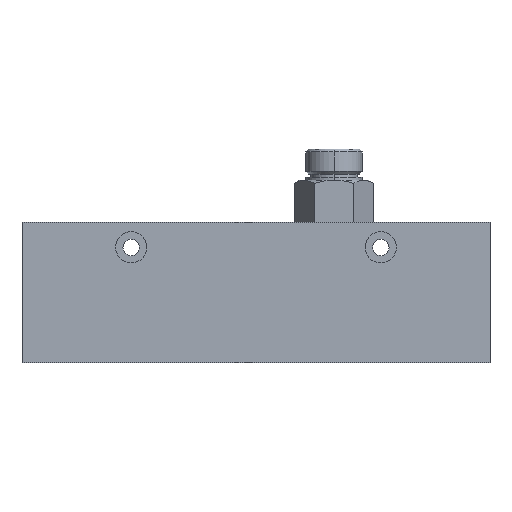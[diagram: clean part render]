
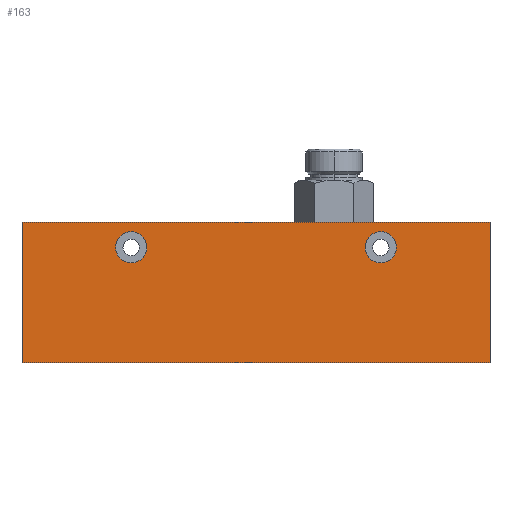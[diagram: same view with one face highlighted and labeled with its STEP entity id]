
A CAD part, top view. The second image highlights one B-rep face of the part: STEP entity #163.
In plain terms, the highlighted planar face has unit normal (0, 0, 1).
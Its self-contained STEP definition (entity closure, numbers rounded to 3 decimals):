
#163 = ADVANCED_FACE( '', ( #302, #303, #304 ), #305, .T. );
#302 = FACE_OUTER_BOUND( '', #495, .T. );
#303 = FACE_BOUND( '', #496, .T. );
#304 = FACE_BOUND( '', #497, .T. );
#305 = PLANE( '', #498 );
#495 = EDGE_LOOP( '', ( #892, #893, #894, #895 ) );
#496 = EDGE_LOOP( '', ( #896, #897 ) );
#497 = EDGE_LOOP( '', ( #898, #899 ) );
#498 = AXIS2_PLACEMENT_3D( '', #900, #901, #902 );
#892 = ORIENTED_EDGE( '', *, *, #1340, .T. );
#893 = ORIENTED_EDGE( '', *, *, #1327, .T. );
#894 = ORIENTED_EDGE( '', *, *, #1336, .T. );
#895 = ORIENTED_EDGE( '', *, *, #1339, .T. );
#896 = ORIENTED_EDGE( '', *, *, #1259, .F. );
#897 = ORIENTED_EDGE( '', *, *, #1331, .F. );
#898 = ORIENTED_EDGE( '', *, *, #1263, .F. );
#899 = ORIENTED_EDGE( '', *, *, #1330, .F. );
#900 = CARTESIAN_POINT( '', ( 0., 0., 14. ) );
#901 = DIRECTION( '', ( 0., 0., 1. ) );
#902 = DIRECTION( '', ( 1., 0., 0. ) );
#1259 = EDGE_CURVE( '', #1464, #1467, #1468, .T. );
#1263 = EDGE_CURVE( '', #1472, #1475, #1476, .T. );
#1327 = EDGE_CURVE( '', #1578, #1575, #1579, .T. );
#1330 = EDGE_CURVE( '', #1475, #1472, #1583, .T. );
#1331 = EDGE_CURVE( '', #1467, #1464, #1584, .T. );
#1336 = EDGE_CURVE( '', #1575, #1589, #1591, .T. );
#1339 = EDGE_CURVE( '', #1589, #1594, #1596, .T. );
#1340 = EDGE_CURVE( '', #1594, #1578, #1597, .T. );
#1464 = VERTEX_POINT( '', #1793 );
#1467 = VERTEX_POINT( '', #1797 );
#1468 = CIRCLE( '', #1798, 5. );
#1472 = VERTEX_POINT( '', #1803 );
#1475 = VERTEX_POINT( '', #1807 );
#1476 = CIRCLE( '', #1808, 5. );
#1575 = VERTEX_POINT( '', #1996 );
#1578 = VERTEX_POINT( '', #2000 );
#1579 = LINE( '', #2001, #2002 );
#1583 = CIRCLE( '', #2008, 5. );
#1584 = CIRCLE( '', #2009, 5. );
#1589 = VERTEX_POINT( '', #2015 );
#1591 = LINE( '', #2018, #2019 );
#1594 = VERTEX_POINT( '', #2023 );
#1596 = LINE( '', #2026, #2027 );
#1597 = LINE( '', #2028, #2029 );
#1793 = CARTESIAN_POINT( '', ( 45., 14.5, 14. ) );
#1797 = CARTESIAN_POINT( '', ( 35., 14.5, 14. ) );
#1798 = AXIS2_PLACEMENT_3D( '', #2375, #2376, #2377 );
#1803 = CARTESIAN_POINT( '', ( -35., 14.5, 14. ) );
#1807 = CARTESIAN_POINT( '', ( -45., 14.5, 14. ) );
#1808 = AXIS2_PLACEMENT_3D( '', #2383, #2384, #2385 );
#1996 = CARTESIAN_POINT( '', ( 75., 22.5, 14. ) );
#2000 = CARTESIAN_POINT( '', ( 75., -22.5, 14. ) );
#2001 = CARTESIAN_POINT( '', ( 75., -22.5, 14. ) );
#2002 = VECTOR( '', #2520, 1. );
#2008 = AXIS2_PLACEMENT_3D( '', #2523, #2524, #2525 );
#2009 = AXIS2_PLACEMENT_3D( '', #2526, #2527, #2528 );
#2015 = CARTESIAN_POINT( '', ( -75., 22.5, 14. ) );
#2018 = CARTESIAN_POINT( '', ( 75., 22.5, 14. ) );
#2019 = VECTOR( '', #2537, 1. );
#2023 = CARTESIAN_POINT( '', ( -75., -22.5, 14. ) );
#2026 = CARTESIAN_POINT( '', ( -75., 22.5, 14. ) );
#2027 = VECTOR( '', #2540, 1. );
#2028 = CARTESIAN_POINT( '', ( -75., -22.5, 14. ) );
#2029 = VECTOR( '', #2541, 1. );
#2375 = CARTESIAN_POINT( '', ( 40., 14.5, 14. ) );
#2376 = DIRECTION( '', ( 0., 0., 1. ) );
#2377 = DIRECTION( '', ( 1., 0., 0. ) );
#2383 = CARTESIAN_POINT( '', ( -40., 14.5, 14. ) );
#2384 = DIRECTION( '', ( 0., 0., 1. ) );
#2385 = DIRECTION( '', ( 1., 0., 0. ) );
#2520 = DIRECTION( '', ( 0., 1., 0. ) );
#2523 = CARTESIAN_POINT( '', ( -40., 14.5, 14. ) );
#2524 = DIRECTION( '', ( 0., 0., 1. ) );
#2525 = DIRECTION( '', ( 1., 0., 0. ) );
#2526 = CARTESIAN_POINT( '', ( 40., 14.5, 14. ) );
#2527 = DIRECTION( '', ( 0., 0., 1. ) );
#2528 = DIRECTION( '', ( 1., 0., 0. ) );
#2537 = DIRECTION( '', ( -1., 0., 0. ) );
#2540 = DIRECTION( '', ( 0., -1., 0. ) );
#2541 = DIRECTION( '', ( 1., 0., 0. ) );
